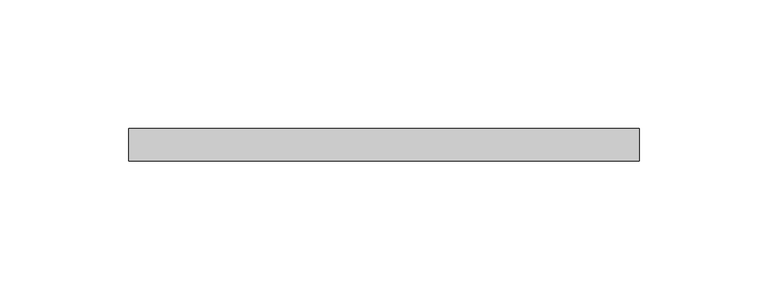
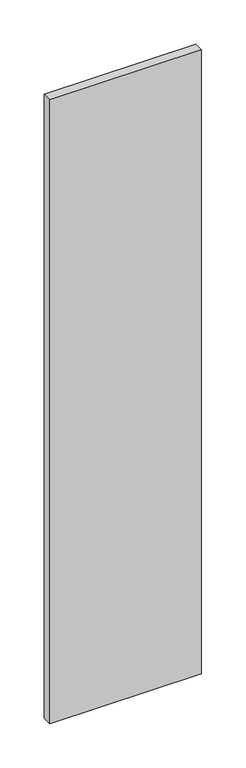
"""IFC4 building model written with IfcOpenShell, lengths in millimetres: proxy geometry, LIVERS_RZR - Glass Panel : LIVERS_RZR - Glass Panel."""

from ifc_helpers import new_model, si_unit, frame, origin, place, context, project, spatial, polyline, outline, extrude, source, transform, mapped, element, save


def building_element_proxy_ec87db15(model_context):
    return source(origin(), model_context, "Body", "SweptSolid", [
        extrude(outline(polyline([(694.9709296, 1.5872342), (496.3459196, 1.5872342), (496.3459196, 14.2874305), (694.9709296, 14.2874305), (694.9709296, 1.5872342)])), frame((0.0, 0.0, 114.3), z_axis=(0.0, 0.0, 1.0), x_axis=(1.0, 0.0, 0.0)), (0.0, 0.0, 1.0), 863.6),
    ])


if __name__ == "__main__":
    model = new_model("IFC4")
    model_context = context("Model", 3, world=origin())
    ifc_project = project(units=[si_unit("LENGTHUNIT", "METRE", prefix="MILLI")], contexts=[model_context])
    site = spatial("IfcSite", under=ifc_project)
    building = spatial("IfcBuilding", under=site)
    placement = place(None, origin())
    building_element_proxy_shape = building_element_proxy_ec87db15(model_context)
    element("IfcBuildingElementProxy", 1, Name="LIVERS_RZR - Glass Panel : LIVERS_RZR - Glass Panel", ObjectType="LIVERS_RZR - Glass Panel : LIVERS_RZR - Glass Panel", at=placement, inside=building, context=model_context, shape_type="MappedRepresentation", body=[
        mapped(building_element_proxy_shape, transform((0.0, 0.0, 0.0), x_axis=(1.0, 0.0, 0.0), y_axis=(0.0, 1.0, 0.0), z_axis=(0.0, 0.0, 1.0))),
    ])
    save(model, "model.ifc")
